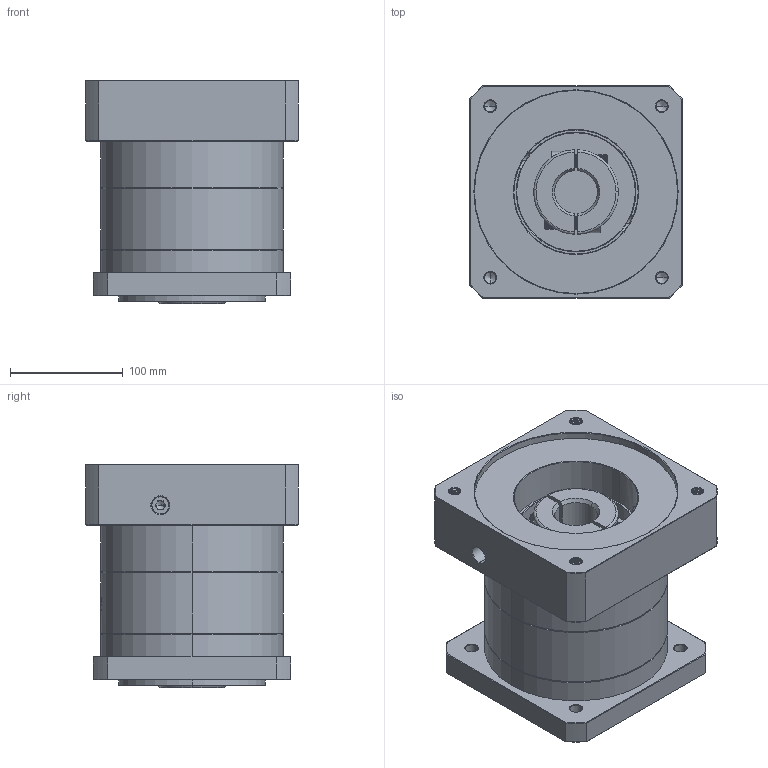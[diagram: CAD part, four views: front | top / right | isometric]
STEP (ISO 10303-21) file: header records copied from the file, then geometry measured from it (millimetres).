
FILE_DESCRIPTION (( 'STEP AP214' ), '1' );
FILE_NAME ('ZF160A-K35-L1-P2-38-180-215-M12.step', '2023-09-03T07:02:13', ( '' ), ( '' ), 'SwSTEP 2.0', 'SolidWorks 2016', '' );
FILE_SCHEMA (( 'AUTOMOTIVE_DESIGN' ));
Length unit declared in the file: millimetre
Products named in the file (1): ZF160A-K35-L1-P2-38-180-215-M12
Bounding box: 188 x 188 x 198.2 mm (x, y, z)
Volume: 4318795.3 mm3; surface area: 349962.2 mm2
Topology: 6 solids, 6 shells, 2128 faces, 5766 edges, 3742 vertices
Faces by surface type: plane 1010, bspline 404, cylinder 374, cone 320, torus 20
Entity records: 119142 total; most frequent: CARTESIAN_POINT 46991, ORIENTED_EDGE 11476, DIRECTION 8413, EDGE_CURVE 5738, VERTEX_POINT 3742, LINE 2993, VECTOR 2993, AXIS2_PLACEMENT_3D 2710
